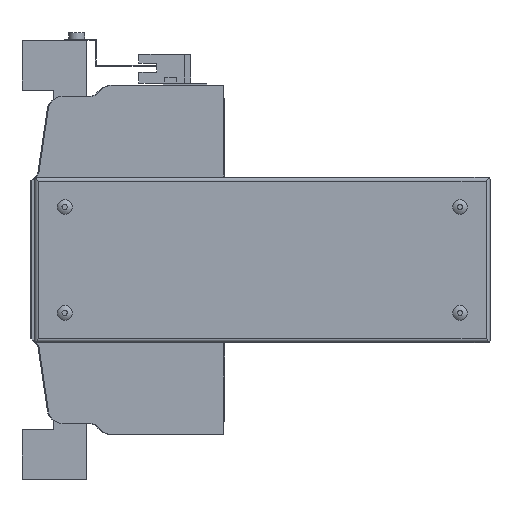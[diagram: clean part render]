
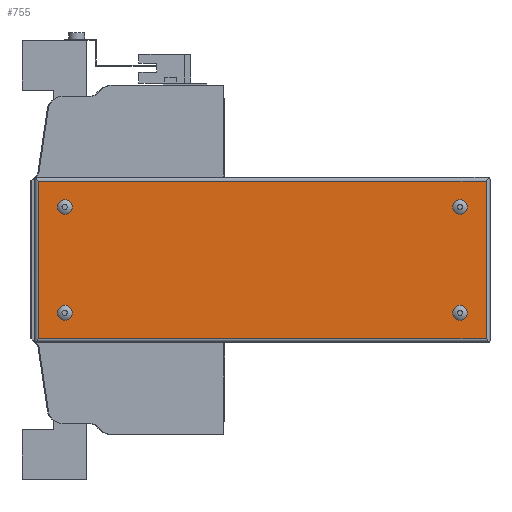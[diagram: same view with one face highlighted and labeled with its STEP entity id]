
A CAD part, left-side view. The second image highlights one B-rep face of the part: STEP entity #755.
In plain terms, the highlighted planar face has unit normal (-1, 0, 0).
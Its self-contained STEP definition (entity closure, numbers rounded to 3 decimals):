
#755 = ADVANCED_FACE( '', ( #1927, #1928, #1929, #1930, #1931 ), #1932, .F. );
#1927 = FACE_BOUND( '', #3714, .T. );
#1928 = FACE_BOUND( '', #3715, .T. );
#1929 = FACE_BOUND( '', #3716, .T. );
#1930 = FACE_BOUND( '', #3717, .T. );
#1931 = FACE_OUTER_BOUND( '', #3718, .T. );
#1932 = PLANE( '', #3719 );
#3714 = EDGE_LOOP( '', ( #5582 ) );
#3715 = EDGE_LOOP( '', ( #5583 ) );
#3716 = EDGE_LOOP( '', ( #5584 ) );
#3717 = EDGE_LOOP( '', ( #5585 ) );
#3718 = EDGE_LOOP( '', ( #5586, #5587, #5588, #5589 ) );
#3719 = AXIS2_PLACEMENT_3D( '', #5590, #5591, #5592 );
#5582 = ORIENTED_EDGE( '', *, *, #10408, .F. );
#5583 = ORIENTED_EDGE( '', *, *, #10409, .F. );
#5584 = ORIENTED_EDGE( '', *, *, #10410, .F. );
#5585 = ORIENTED_EDGE( '', *, *, #10411, .F. );
#5586 = ORIENTED_EDGE( '', *, *, #10412, .F. );
#5587 = ORIENTED_EDGE( '', *, *, #10413, .F. );
#5588 = ORIENTED_EDGE( '', *, *, #10414, .T. );
#5589 = ORIENTED_EDGE( '', *, *, #10415, .T. );
#5590 = CARTESIAN_POINT( '', ( -66., -131.95, 40.5 ) );
#5591 = DIRECTION( '', ( 1., 0., 0. ) );
#5592 = DIRECTION( '', ( 0., 0., -1. ) );
#10408 = EDGE_CURVE( '', #12381, #12381, #12382, .F. );
#10409 = EDGE_CURVE( '', #12383, #12383, #12384, .F. );
#10410 = EDGE_CURVE( '', #12385, #12385, #12386, .F. );
#10411 = EDGE_CURVE( '', #12387, #12387, #12388, .F. );
#10412 = EDGE_CURVE( '', #12389, #12390, #12391, .T. );
#10413 = EDGE_CURVE( '', #12392, #12389, #12393, .T. );
#10414 = EDGE_CURVE( '', #12392, #12394, #12395, .T. );
#10415 = EDGE_CURVE( '', #12394, #12390, #12396, .T. );
#12381 = VERTEX_POINT( '', #15273 );
#12382 = CIRCLE( '', #15274, 3.7 );
#12383 = VERTEX_POINT( '', #15275 );
#12384 = CIRCLE( '', #15276, 3.7 );
#12385 = VERTEX_POINT( '', #15277 );
#12386 = CIRCLE( '', #15278, 3.7 );
#12387 = VERTEX_POINT( '', #15279 );
#12388 = CIRCLE( '', #15280, 3.7 );
#12389 = VERTEX_POINT( '', #15281 );
#12390 = VERTEX_POINT( '', #15282 );
#12391 = LINE( '', #15283, #15284 );
#12392 = VERTEX_POINT( '', #15285 );
#12393 = LINE( '', #15286, #15287 );
#12394 = VERTEX_POINT( '', #15288 );
#12395 = LINE( '', #15289, #15290 );
#12396 = LINE( '', #15291, #15292 );
#15273 = CARTESIAN_POINT( '', ( -66., -117.95, 22.8 ) );
#15274 = AXIS2_PLACEMENT_3D( '', #19110, #19111, #19112 );
#15275 = CARTESIAN_POINT( '', ( -66., -117.95, -30.2 ) );
#15276 = AXIS2_PLACEMENT_3D( '', #19113, #19114, #19115 );
#15277 = CARTESIAN_POINT( '', ( -66., 80.05, 22.8 ) );
#15278 = AXIS2_PLACEMENT_3D( '', #19116, #19117, #19118 );
#15279 = CARTESIAN_POINT( '', ( -66., 80.05, -30.2 ) );
#15280 = AXIS2_PLACEMENT_3D( '', #19119, #19120, #19121 );
#15281 = CARTESIAN_POINT( '', ( -66., 93.05, 39.5 ) );
#15282 = CARTESIAN_POINT( '', ( -66., -130.95, 39.5 ) );
#15283 = CARTESIAN_POINT( '', ( -66., 228., 39.5 ) );
#15284 = VECTOR( '', #19122, 1000. );
#15285 = CARTESIAN_POINT( '', ( -66., 93.05, -39.5 ) );
#15286 = CARTESIAN_POINT( '', ( -66., 93.05, -83. ) );
#15287 = VECTOR( '', #19123, 1000. );
#15288 = CARTESIAN_POINT( '', ( -66., -130.95, -39.5 ) );
#15289 = CARTESIAN_POINT( '', ( -66., 228., -39.5 ) );
#15290 = VECTOR( '', #19124, 1000. );
#15291 = CARTESIAN_POINT( '', ( -66., -130.95, -83. ) );
#15292 = VECTOR( '', #19125, 1000. );
#19110 = CARTESIAN_POINT( '', ( -66., -117.95, 26.5 ) );
#19111 = DIRECTION( '', ( 1., 0., 0. ) );
#19112 = DIRECTION( '', ( 0., 0., -1. ) );
#19113 = CARTESIAN_POINT( '', ( -66., -117.95, -26.5 ) );
#19114 = DIRECTION( '', ( 1., 0., 0. ) );
#19115 = DIRECTION( '', ( 0., 0., -1. ) );
#19116 = CARTESIAN_POINT( '', ( -66., 80.05, 26.5 ) );
#19117 = DIRECTION( '', ( 1., 0., 0. ) );
#19118 = DIRECTION( '', ( 0., 0., -1. ) );
#19119 = CARTESIAN_POINT( '', ( -66., 80.05, -26.5 ) );
#19120 = DIRECTION( '', ( 1., 0., 0. ) );
#19121 = DIRECTION( '', ( 0., 0., -1. ) );
#19122 = DIRECTION( '', ( 0., -1., 0. ) );
#19123 = DIRECTION( '', ( 0., 0., 1. ) );
#19124 = DIRECTION( '', ( 0., -1., 0. ) );
#19125 = DIRECTION( '', ( 0., 0., 1. ) );
